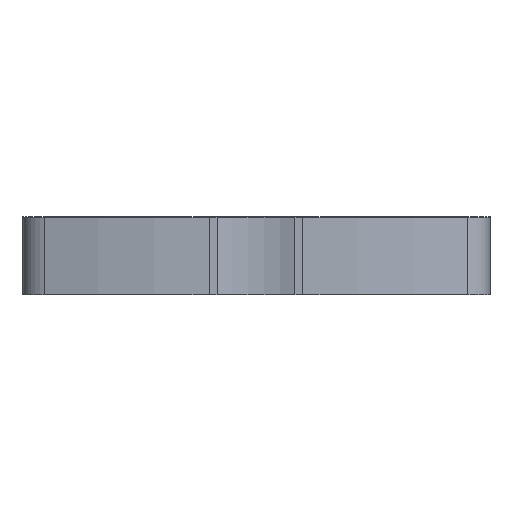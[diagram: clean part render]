
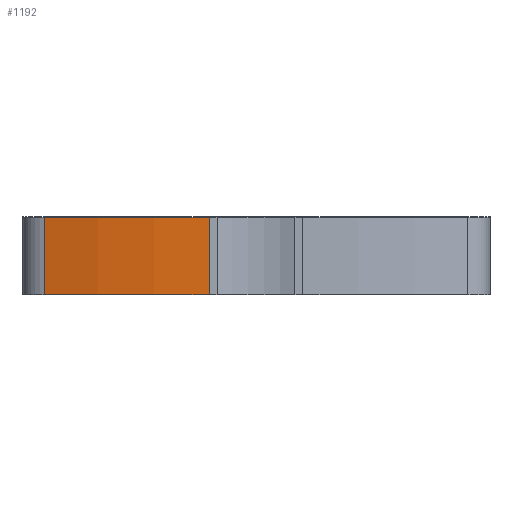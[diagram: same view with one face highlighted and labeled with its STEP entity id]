
A CAD part, front view. The second image highlights one B-rep face of the part: STEP entity #1192.
In plain terms, the highlighted cylindrical face has radius 37 mm (diameter 74 mm), a partial arc.
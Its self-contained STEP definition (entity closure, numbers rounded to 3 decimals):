
#8 = VERTEX_POINT ( 'NONE', #1249 ) ;
#24 = DIRECTION ( 'NONE',  ( 1., 0., 0. ) ) ;
#26 = VERTEX_POINT ( 'NONE', #1239 ) ;
#43 = VERTEX_POINT ( 'NONE', #293 ) ;
#101 = EDGE_LOOP ( 'NONE', ( #871, #209, #162, #359 ) ) ;
#122 = DIRECTION ( 'NONE',  ( 0., 0., -1. ) ) ;
#156 = CARTESIAN_POINT ( 'NONE',  ( 5., 37., -3. ) ) ;
#162 = ORIENTED_EDGE ( 'NONE', *, *, #991, .F. ) ;
#209 = ORIENTED_EDGE ( 'NONE', *, *, #835, .T. ) ;
#222 = AXIS2_PLACEMENT_3D ( 'NONE', #1123, #24, #122 ) ;
#257 = EDGE_CURVE ( 'NONE', #43, #8, #636, .T. ) ;
#276 = CYLINDRICAL_SURFACE ( 'NONE', #1210, 37. ) ;
#293 = CARTESIAN_POINT ( 'NONE',  ( 0., 0., -3. ) ) ;
#297 = DIRECTION ( 'NONE',  ( 0., 0., -1. ) ) ;
#359 = ORIENTED_EDGE ( 'NONE', *, *, #464, .T. ) ;
#464 = EDGE_CURVE ( 'NONE', #26, #43, #522, .T. ) ;
#495 = FACE_OUTER_BOUND ( 'NONE', #101, .T. ) ;
#522 = LINE ( 'NONE', #841, #935 ) ;
#545 = CARTESIAN_POINT ( 'NONE',  ( 5., 1.542, -13.571 ) ) ;
#569 = VECTOR ( 'NONE', #1276, 1000. ) ;
#636 = CIRCLE ( 'NONE', #222, 37. ) ;
#649 = LINE ( 'NONE', #545, #569 ) ;
#731 = DIRECTION ( 'NONE',  ( 0., 0., 1. ) ) ;
#835 = EDGE_CURVE ( 'NONE', #8, #943, #649, .T. ) ;
#841 = CARTESIAN_POINT ( 'NONE',  ( 5., 0., -3. ) ) ;
#851 = CARTESIAN_POINT ( 'NONE',  ( 5., 37., -3. ) ) ;
#870 = AXIS2_PLACEMENT_3D ( 'NONE', #156, #1066, #297 ) ;
#871 = ORIENTED_EDGE ( 'NONE', *, *, #257, .T. ) ;
#927 = CARTESIAN_POINT ( 'NONE',  ( 5., 1.542, -13.571 ) ) ;
#935 = VECTOR ( 'NONE', #961, 1000. ) ;
#943 = VERTEX_POINT ( 'NONE', #927 ) ;
#961 = DIRECTION ( 'NONE',  ( -1., 0., 0. ) ) ;
#986 = CIRCLE ( 'NONE', #870, 37. ) ;
#991 = EDGE_CURVE ( 'NONE', #26, #943, #986, .T. ) ;
#1063 = DIRECTION ( 'NONE',  ( -1., 0., 0. ) ) ;
#1066 = DIRECTION ( 'NONE',  ( 1., 0., 0. ) ) ;
#1123 = CARTESIAN_POINT ( 'NONE',  ( 0., 37., -3. ) ) ;
#1192 = ADVANCED_FACE ( 'NONE', ( #495 ), #276, .T. ) ;
#1210 = AXIS2_PLACEMENT_3D ( 'NONE', #851, #1063, #731 ) ;
#1239 = CARTESIAN_POINT ( 'NONE',  ( 5., 0., -3. ) ) ;
#1249 = CARTESIAN_POINT ( 'NONE',  ( 0., 1.542, -13.571 ) ) ;
#1276 = DIRECTION ( 'NONE',  ( 1., 0., 0. ) ) ;
